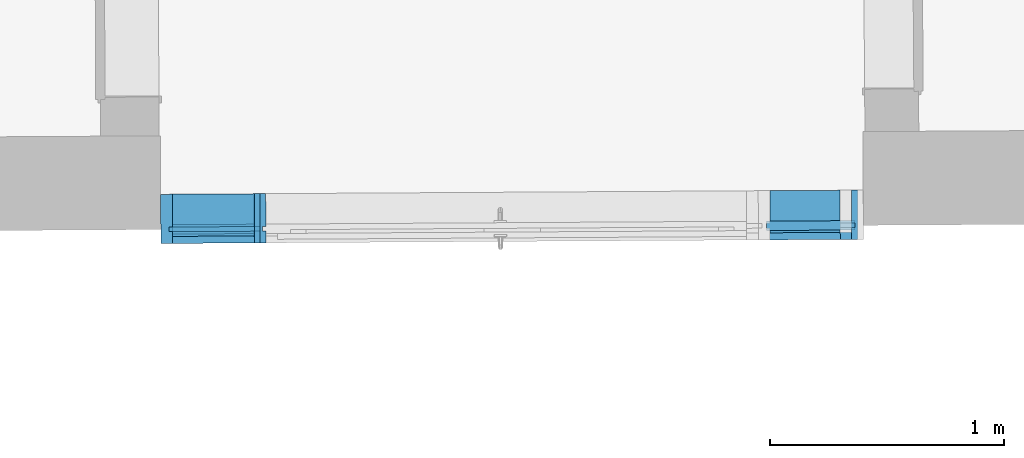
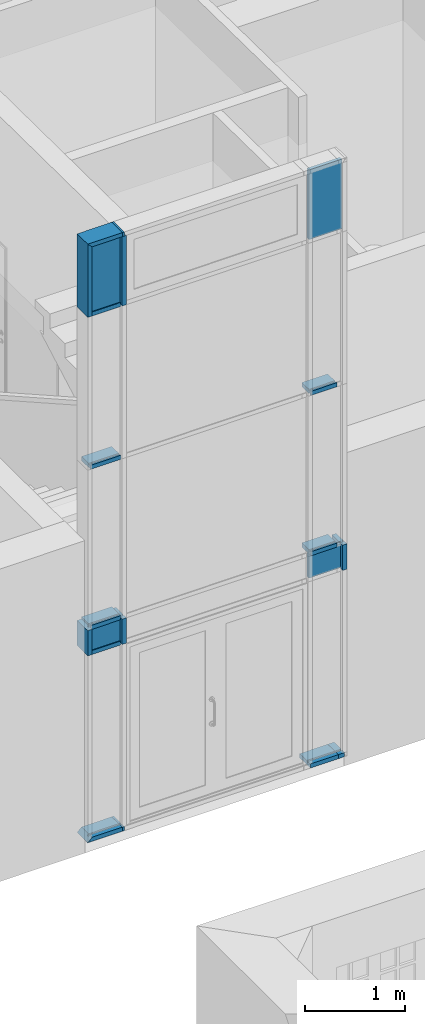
# One storey, part 147 of 196: 21 building element parts, 1 element without a shape of its own.
"""IFC2X3 building model written with IfcOpenShell, lengths in metres."""

import ifcopenshell
import ifcopenshell.guid

model = None  # the IFC model being written
_history = None  # IfcOwnerHistory: only IFC2X3 demands one
_inside = {}  # id of a spatial element -> (the spatial element, [elements in it])
_under = {}  # id of a project, library or spatial element -> (it, [spatial elements below it])
_declared = {}  # id of a project -> (the project, [libraries it declares])
_typed = {}  # id of a type object -> (the type object, [elements of that type])
_made_of = {}  # id of a material, layer set ... -> (it, [elements and type objects made of it])


def new_model(schema):
    """Start an empty IFC model of exactly this schema.

    Asked for "IFC4X3", IfcOpenShell would pick the latest addendum, in which some entities
    have other attributes; the version numbers below select the first issue.
    IFC2X3 requires an IfcOwnerHistory on every rooted entity: one is made here for all.
    """
    global model, _history
    if schema == "IFC4X3":
        model = ifcopenshell.file(schema_version=(4, 3, 0, 0))
    else:
        model = ifcopenshell.file(schema=schema)
    _inside.clear()
    _under.clear()
    _declared.clear()
    _typed.clear()
    _made_of.clear()
    _history = None
    if model.schema == "IFC2X3":
        org = make("IfcOrganization", Name="unknown")
        user = make(
            "IfcPersonAndOrganization",
            ThePerson=make("IfcPerson", FamilyName="unknown"),
            TheOrganization=org,
        )
        app = make(
            "IfcApplication",
            ApplicationDeveloper=org,
            Version="unknown",
            ApplicationFullName="unknown",
            ApplicationIdentifier="unknown",
        )
        _history = make(
            "IfcOwnerHistory",
            OwningUser=user,
            OwningApplication=app,
            ChangeAction="ADDED",
            CreationDate=0,
        )
    return model


def make(cls, **values):
    """One entity of the class cls with the attributes given. An attribute that is None is left unset."""
    return model.create_entity(
        cls, **{name: value for name, value in values.items() if value is not None}
    )


def entity(cls, *values):
    """Any entity or typed value of the class cls, its attributes in the order of the schema. None: left unset."""
    e = model.create_entity(cls)
    for i, value in enumerate(values):
        if value is not None:
            e[i] = value
    return e


def rooted(cls, **values):
    """An entity with a GlobalId (a new one), such as an element, a storey or a relation."""
    return make(cls, GlobalId=ifcopenshell.guid.new(), OwnerHistory=_history, **values)


def si_unit(unit_type, name, prefix=None):
    """IfcSIUnit, for example si_unit("LENGTHUNIT", "METRE", prefix="MILLI")."""
    return make("IfcSIUnit", UnitType=unit_type, Prefix=prefix, Name=name)


def converted_unit(unit_type, name, factor, base, dimensions=None, offset=None):
    """IfcConversionBasedUnit, such as the inch: factor (a typed value) times the base unit."""
    return make(
        "IfcConversionBasedUnit"
        if offset is None
        else "IfcConversionBasedUnitWithOffset",
        ConversionOffset=offset,
        Dimensions=None
        if dimensions is None
        else entity("IfcDimensionalExponents", *dimensions),
        UnitType=unit_type,
        Name=name,
        ConversionFactor=make(
            "IfcMeasureWithUnit", ValueComponent=factor, UnitComponent=base
        ),
    )


def derived_unit(unit_type, elements):
    """IfcDerivedUnit: a product of units, each with its exponent."""
    return make(
        "IfcDerivedUnit",
        Elements=[
            make("IfcDerivedUnitElement", Unit=unit, Exponent=power)
            for unit, power in elements
        ],
        UnitType=unit_type,
    )


def money_unit(currency):
    """IfcMonetaryUnit."""
    return make("IfcMonetaryUnit", Currency=currency)


def assignment(units):
    """IfcUnitAssignment: the units of a project."""
    return None if units is None else make("IfcUnitAssignment", Units=units)


def point(xyz):
    """IfcCartesianPoint."""
    return None if xyz is None else make("IfcCartesianPoint", Coordinates=xyz)


def direction(xyz):
    """IfcDirection."""
    return None if xyz is None else make("IfcDirection", DirectionRatios=xyz)


def frame(location, z_axis=None, x_axis=None):
    """IfcAxis2Placement3D, a coordinate frame: its origin and axes. An axis left out is left unset."""
    return make(
        "IfcAxis2Placement3D",
        Location=point(location),
        Axis=direction(z_axis),
        RefDirection=direction(x_axis),
    )


def origin_with_axes():
    """The frame at (0, 0, 0) with the z axis (0, 0, 1) and the x axis (1, 0, 0) written out."""
    return frame((0.0, 0.0, 0.0), z_axis=(0.0, 0.0, 1.0), x_axis=(1.0, 0.0, 0.0))


def place(relative_to, where):
    """IfcLocalPlacement: puts the frame where relative to a parent placement (None: the world)."""
    return make(
        "IfcLocalPlacement", PlacementRelTo=relative_to, RelativePlacement=where
    )


def context(
    kind, dimensions, precision=None, world=None, true_north=None, identifier=None
):
    """IfcGeometricRepresentationContext, for example the 3D "Model" context."""
    return make(
        "IfcGeometricRepresentationContext",
        ContextIdentifier=identifier,
        ContextType=kind,
        CoordinateSpaceDimension=dimensions,
        Precision=precision,
        WorldCoordinateSystem=world,
        TrueNorth=true_north,
    )


def subcontext(parent, identifier, kind, view, scale=None):
    """IfcGeometricRepresentationSubContext, for example "Body" below "Model"."""
    return make(
        "IfcGeometricRepresentationSubContext",
        ContextIdentifier=identifier,
        ContextType=kind,
        ParentContext=parent,
        TargetScale=scale,
        TargetView=view,
    )


def project(units=None, contexts=None):
    """IfcProject with its units and contexts."""
    return rooted(
        "IfcProject",
        Name="project",
        RepresentationContexts=contexts,
        UnitsInContext=assignment(units),
    )


def spatial(cls, under=None, at=None, **own):
    """A site, building, storey or space (cls), placed at a placement, below another one or the project."""
    s = rooted(cls, ObjectPlacement=at, **own)
    if under is not None:
        _under.setdefault(under.id(), (under, []))[1].append(s)
    return s


def faces_of(points, faces, orient=None, outer=None):
    """IfcFace entities. A face is a list of loops; a loop is a list of indices into points, from 0.

    orient and outer hold one flag for each loop. By default every Orientation is true, the
    first loop of a face is its IfcFaceOuterBound and the others are IfcFaceBound.
    """
    made = []
    for i, loops in enumerate(faces):
        bounds = []
        for j, loop in enumerate(loops):
            is_outer = j == 0 if outer is None else outer[i][j]
            bounds.append(
                make(
                    "IfcFaceOuterBound" if is_outer else "IfcFaceBound",
                    Bound=make("IfcPolyLoop", Polygon=[points[k] for k in loop]),
                    Orientation=True if orient is None else orient[i][j],
                )
            )
        made.append(make("IfcFace", Bounds=bounds))
    return made


def faceted_brep(points, faces, orient=None, outer=None, voids=None):
    """IfcFacetedBrep: a solid bounded by flat faces; with voids (closed shells), ...WithVoids."""
    shared = [point(p) for p in points]
    hull = make("IfcClosedShell", CfsFaces=faces_of(shared, faces, orient, outer))
    if voids is None:
        return make("IfcFacetedBrep", Outer=hull)
    return make(
        "IfcFacetedBrepWithVoids",
        Outer=hull,
        Voids=[
            make(cls, CfsFaces=faces_of(shared, fs, o, b)) for cls, fs, o, b in voids
        ],
    )


def shape(context_of_items, identifier, shape_type, items):
    """IfcShapeRepresentation: the items that make up one representation, for example the "Body"."""
    return make(
        "IfcShapeRepresentation",
        ContextOfItems=context_of_items,
        RepresentationIdentifier=identifier,
        RepresentationType=shape_type,
        Items=items,
    )


def material(Name=None, Category=None):
    """IfcMaterial."""
    return make("IfcMaterial", Name=Name, Category=Category)


def made_of(thing, what):
    """Note that an element or type object is made of a material, layer set ...; save() writes the relation."""
    if what is not None:
        _made_of.setdefault(what.id(), (what, []))[1].append(thing)
    return thing


def type_object(cls, material=None, **own):
    """A type object (cls), such as IfcWallType, which elements share."""
    return made_of(rooted(cls, **own), material)


def element(
    cls,
    number,
    at=None,
    inside=None,
    cuts=None,
    type_object=None,
    material=None,
    context=None,
    identifier="Body",
    shape_type=None,
    held_by="IfcProductDefinitionShape",
    body=None,
    shapes=None,
    **own,
):
    """One element of the class cls, such as IfcWall. Its Tag is "e" and its number.

    at: its placement. inside: the storey or other place that contains it. cuts: it is an
    opening in that element (IfcRelVoidsElement). A single representation is given by context,
    identifier, shape_type and body (its items); several are given by shapes. held_by: the class
    of the entity that holds the representations. save() writes the other relations.
    """
    e = rooted(cls, Tag="e%d" % number, ObjectPlacement=at, **own)
    if body is not None:
        shapes = [shape(context, identifier, shape_type, body)]
    if shapes is not None:
        e.Representation = make(held_by, Representations=shapes)
    if inside is not None:
        _inside.setdefault(inside.id(), (inside, []))[1].append(e)
    if cuts is not None:
        rooted(
            "IfcRelVoidsElement", RelatingBuildingElement=cuts, RelatedOpeningElement=e
        )
    if type_object is not None:
        _typed.setdefault(type_object.id(), (type_object, []))[1].append(e)
    return made_of(e, material)


def aggregate(whole, parts):
    """IfcRelAggregates: a whole, such as a stair, and the parts it consists of."""
    return rooted("IfcRelAggregates", RelatingObject=whole, RelatedObjects=parts)


def save(model, path):
    """Write the relations noted so far, then the file.

    IfcRelAggregates (storeys below a building ...), IfcRelContainedInSpatialStructure (elements
    in a storey), IfcRelDefinesByType, IfcRelAssociatesMaterial and IfcRelDeclares: one each for
    every whole, place, type object, material and project.
    """
    for whole, parts in _under.values():
        aggregate(whole, parts)
    for where, things in _inside.values():
        rooted(
            "IfcRelContainedInSpatialStructure",
            RelatedElements=things,
            RelatingStructure=where,
        )
    for kind, things in _typed.values():
        rooted("IfcRelDefinesByType", RelatedObjects=things, RelatingType=kind)
    for what, things in _made_of.values():
        rooted("IfcRelAssociatesMaterial", RelatedObjects=things, RelatingMaterial=what)
    for by, libraries in _declared.values():
        rooted("IfcRelDeclares", RelatingContext=by, RelatedDefinitions=libraries)
    model.write(path)


model = new_model("IFC2X3")

# Units and contexts
model_context = context("Model", 3, precision=1e-05, world=origin_with_axes(), true_north=direction((0.0, 1.0)))
body_context = subcontext(model_context, "Body", "Model", "MODEL_VIEW")
ifc_project = project(units=[si_unit("LENGTHUNIT", "METRE"), si_unit("AREAUNIT", "SQUARE_METRE"), si_unit("VOLUMEUNIT", "CUBIC_METRE"), converted_unit("PLANEANGLEUNIT", "DEGREE", entity("IfcPlaneAngleMeasure", 0.0174532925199), si_unit("PLANEANGLEUNIT", "RADIAN"), dimensions=[0, 0, 0, 0, 0, 0, 0]), money_unit("EUR"), converted_unit("TIMEUNIT", "Year", entity("IfcTimeMeasure", 31556926.0), si_unit("TIMEUNIT", "SECOND"), dimensions=[0, 0, 1, 0, 0, 0, 0]), si_unit("MASSUNIT", "GRAM", prefix="KILO"), si_unit("THERMODYNAMICTEMPERATUREUNIT", "DEGREE_CELSIUS"), si_unit("LUMINOUSINTENSITYUNIT", "LUMEN"), si_unit("ENERGYUNIT", "JOULE", prefix="MEGA"), derived_unit("THERMALCONDUCTANCEUNIT", [(si_unit("POWERUNIT", "WATT"), 1), (si_unit("LENGTHUNIT", "METRE"), -1), (si_unit("THERMODYNAMICTEMPERATUREUNIT", "KELVIN"), -1)]), derived_unit("SPECIFICHEATCAPACITYUNIT", [(si_unit("ENERGYUNIT", "JOULE"), 1), (si_unit("MASSUNIT", "GRAM", prefix="KILO"), -1), (si_unit("THERMODYNAMICTEMPERATUREUNIT", "KELVIN"), -1)]), derived_unit("MASSDENSITYUNIT", [(si_unit("MASSUNIT", "GRAM", prefix="KILO"), 1), (si_unit("VOLUMEUNIT", "CUBIC_METRE"), -1)])], contexts=[model_context])

# Site, building, storey
site_placement = place(None, origin_with_axes())
site = spatial("IfcSite", under=ifc_project, at=site_placement, Name="Gelände", CompositionType="ELEMENT")
building_placement = place(site_placement, origin_with_axes())
building = spatial("IfcBuilding", under=site, at=building_placement, Name="Gebäude", CompositionType="ELEMENT")
storey_placement = place(building_placement, frame((0.0, 0.0, -3.0), z_axis=(0.0, 0.0, 1.0), x_axis=(1.0, 0.0, 0.0)))
storey = spatial("IfcBuildingStorey", under=building, at=storey_placement, Name="KELLERGESCHOSS", CompositionType="ELEMENT", Elevation=-3.0)

# Proxy, building element parts
building_element_proxy_type = type_object("IfcBuildingElementProxyType", Name="Fassadentyp", PredefinedType="NOTDEFINED")
proxy_placement = place(storey_placement, frame((-23.8310150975, 30.9074049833, 0.410855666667), z_axis=(0.0, 0.0, 1.0), x_axis=(1.0, 0.0, 0.0)))
proxy = element("IfcBuildingElementProxy", 1, at=proxy_placement, inside=storey, type_object=building_element_proxy_type, Name="Fassade-002")
ifc_material_1 = material(Name="45_Glas, Normalglas")
building_element_part_1_placement = place(proxy_placement, origin_with_axes())
building_element_part_1 = element("IfcBuildingElementPart", 2, at=building_element_part_1_placement, material=ifc_material_1, Name="45_Glas, Normalglas", context=body_context, shape_type="Brep", body=[
    faceted_brep([(0.147138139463, 0.0208810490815, 7.26500005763), (0.0833492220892, 0.0204992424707, 7.26500005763), (0.0835886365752, -0.0195000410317, 7.26500005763), (0.147377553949, -0.0191182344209, 7.26500005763), (0.147138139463, 0.0208810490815, 6.41594889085), (0.0833492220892, 0.0204992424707, 6.41594889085), (-0.230846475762, 0.0186186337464, 6.41594889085), (-0.230846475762, 0.0186186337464, 7.26500005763), (-0.230607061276, -0.021380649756, 7.26500005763), (-0.230607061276, -0.021380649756, 6.41594889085), (0.0835886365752, -0.0195000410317, 6.41594889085), (0.147377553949, -0.0191182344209, 6.41594889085)], [[[0, 1, 2, 3]], [[0, 4, 5, 6, 7, 1]], [[1, 7, 8, 2]], [[3, 2, 8, 9, 10, 11]], [[4, 0, 3, 11]], [[5, 4, 11, 10]], [[6, 5, 10, 9]], [[7, 6, 9, 8]]]),
])
building_element_part_2_placement = place(proxy_placement, origin_with_axes())
building_element_part_2 = element("IfcBuildingElementPart", 3, at=building_element_part_2_placement, material=ifc_material_1, Name="45_Glas, Normalglas", context=body_context, shape_type="Brep", body=[
    faceted_brep([(-2.40286183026, 0.00561810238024, 7.26500005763), (-2.41660599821, 0.00553583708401, 7.26500005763), (-2.41636658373, -0.0344634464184, 7.26500005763), (-2.40262241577, -0.0343811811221, 7.26500005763), (-2.40286183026, 0.00561810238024, 6.41594889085), (-2.41660599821, 0.00553583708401, 6.41594889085), (-2.78159945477, 0.00335117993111, 6.41594889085), (-2.78159945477, 0.00335117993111, 7.26500005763), (-2.78136004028, -0.0366481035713, 7.26500005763), (-2.78136004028, -0.0366481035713, 6.41594889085), (-2.41636658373, -0.0344634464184, 6.41594889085), (-2.40262241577, -0.0343811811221, 6.41594889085)], [[[0, 1, 2, 3]], [[0, 4, 5, 6, 7, 1]], [[1, 7, 8, 2]], [[3, 2, 8, 9, 10, 11]], [[4, 0, 3, 11]], [[5, 4, 11, 10]], [[6, 5, 10, 9]], [[7, 6, 9, 8]]]),
])
building_element_part_3_placement = place(proxy_placement, origin_with_axes())
building_element_part_3 = element("IfcBuildingElementPart", 4, at=building_element_part_3_placement, material=ifc_material_1, Name="45_Glas, Normalglas", context=body_context, shape_type="Brep", body=[
    faceted_brep([(0.147138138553, 0.0208810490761, 2.57656080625), (0.0833492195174, 0.0204992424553, 2.57656080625), (0.0835886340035, -0.0195000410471, 2.57656080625), (0.147377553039, -0.0191182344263, 2.57656080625), (0.147138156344, 0.0208810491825, 2.28812768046), (0.0833492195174, 0.0204992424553, 2.28812768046), (-0.230846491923, 0.0186186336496, 2.28812768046), (-0.230846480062, 0.0186186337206, 2.57656080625), (-0.230607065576, -0.0213806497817, 2.57656080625), (-0.230607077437, -0.0213806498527, 2.28812768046), (0.0835886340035, -0.0195000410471, 2.28812768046), (0.14737757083, -0.0191182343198, 2.28812768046)], [[[0, 1, 2, 3]], [[0, 4, 5, 6, 7, 1]], [[1, 7, 8, 2]], [[3, 2, 8, 9, 10, 11]], [[4, 0, 3, 11]], [[5, 4, 11, 10]], [[6, 5, 10, 9]], [[7, 6, 9, 8]]]),
])
building_element_part_4_placement = place(proxy_placement, origin_with_axes())
building_element_part_4 = element("IfcBuildingElementPart", 5, at=building_element_part_4_placement, material=ifc_material_1, Name="45_Glas, Normalglas", context=body_context, shape_type="Brep", body=[
    faceted_brep([(-2.40286183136, 0.00561810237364, 2.57656080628), (-2.41660599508, 0.00553583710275, 2.57656080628), (-2.41636658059, -0.0344634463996, 2.57656080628), (-2.40262241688, -0.0343811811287, 2.57656080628), (-2.40286181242, 0.00561810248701, 2.28812767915), (-2.41660599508, 0.00553583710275, 2.28812767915), (-2.7815994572, 0.00335117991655, 2.28812767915), (-2.7815994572, 0.00335117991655, 2.57656080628), (-2.78136004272, -0.0366481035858, 2.57656080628), (-2.78136004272, -0.0366481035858, 2.28812767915), (-2.41636658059, -0.0344634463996, 2.28812767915), (-2.40262239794, -0.0343811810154, 2.28812767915)], [[[0, 1, 2, 3]], [[0, 4, 5, 6, 7, 1]], [[1, 7, 8, 2]], [[3, 2, 8, 9, 10, 11]], [[4, 0, 3, 11]], [[5, 4, 11, 10]], [[6, 5, 10, 9]], [[7, 6, 9, 8]]]),
])
ifc_material_2 = material(Name="53_Metall, Aluminium")
building_element_part_5_placement = place(proxy_placement, origin_with_axes())
building_element_part_5 = element("IfcBuildingElementPart", 6, at=building_element_part_5_placement, material=ifc_material_2, Name="53_Metall, Aluminium", context=body_context, shape_type="Brep", body=[
    faceted_brep([(0.157197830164, 0.0109410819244, 0.035), (0.157317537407, -0.00905855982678, 0.035), (0.157317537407, -0.00905855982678, 0.05), (0.157616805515, -0.0590576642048, 0.05), (0.157616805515, -0.0590576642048, 0.0), (0.156359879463, 0.150938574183, 0.0), (0.156359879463, 0.150938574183, 0.05), (0.157197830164, 0.0109410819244, 0.05), (0.0834090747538, 0.0104994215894, 0.035), (0.0835287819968, -0.00950022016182, 0.035), (0.0835287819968, -0.00950022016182, 0.05), (0.0838280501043, -0.0594993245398, 0.05), (0.0838280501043, -0.0594993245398, 0.0), (0.0825711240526, 0.150496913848, 0.0), (0.0825711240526, 0.150496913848, 0.05), (0.0834090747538, 0.0104994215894, 0.05)], [[[0, 1, 2, 3, 4, 5, 6, 7]], [[1, 0, 8, 9]], [[10, 2, 1, 9]], [[2, 10, 11, 3]], [[12, 4, 3, 11]], [[13, 5, 4, 12]], [[14, 6, 5, 13]], [[15, 7, 6, 14]], [[0, 7, 15, 8]], [[8, 15, 14, 13, 12, 11, 10, 9]]]),
])
building_element_part_6_placement = place(proxy_placement, origin_with_axes())
building_element_part_6 = element("IfcBuildingElementPart", 7, at=building_element_part_6_placement, material=ifc_material_2, Name="53_Metall, Aluminium", context=body_context, shape_type="Brep", body=[
    faceted_brep([(0.16719765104, 0.0110009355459, 2.5865608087), (0.182197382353, 0.0110907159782, 2.5865608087), (0.181359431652, 0.151088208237, 2.5865608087), (0.131360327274, 0.150788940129, 2.5865608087), (0.132198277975, 0.0107914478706, 2.5865608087), (0.147198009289, 0.0108812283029, 2.5865608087), (0.147317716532, -0.00911841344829, 2.5865608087), (0.132317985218, -0.00920819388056, 2.5865608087), (0.132617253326, -0.0592072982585, 2.5865608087), (0.182616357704, -0.058908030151, 2.5865608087), (0.182317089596, -0.00890892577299, 2.5865608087), (0.167317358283, -0.00899870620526, 2.5865608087), (0.16719765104, 0.0110009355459, 2.27812767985), (0.182197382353, 0.0110907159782, 2.27812767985), (0.181359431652, 0.151088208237, 2.27812767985), (0.131360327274, 0.150788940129, 2.27812767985), (0.132198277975, 0.0107914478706, 2.27812767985), (0.147198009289, 0.0108812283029, 2.27812767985), (0.147317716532, -0.00911841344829, 2.27812767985), (0.132317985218, -0.00920819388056, 2.27812767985), (0.132617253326, -0.0592072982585, 2.27812767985), (0.182616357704, -0.058908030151, 2.27812767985), (0.182317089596, -0.00890892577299, 2.27812767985), (0.167317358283, -0.00899870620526, 2.27812767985)], [[[0, 1, 2, 3, 4, 5, 6, 7, 8, 9, 10, 11]], [[1, 0, 12, 13]], [[1, 13, 14, 2]], [[3, 2, 14, 15]], [[4, 3, 15, 16]], [[4, 16, 17, 5]], [[5, 17, 18, 6]], [[7, 6, 18, 19]], [[19, 20, 8, 7]], [[9, 8, 20, 21]], [[22, 10, 9, 21]], [[11, 10, 22, 23]], [[0, 11, 23, 12]], [[23, 22, 21, 20, 19, 18, 17, 16, 15, 14, 13, 12]]]),
])
building_element_part_7_placement = place(proxy_placement, origin_with_axes())
building_element_part_7 = element("IfcBuildingElementPart", 8, at=building_element_part_7_placement, material=ifc_material_2, Name="53_Metall, Aluminium", context=body_context, shape_type="Brep", body=[
    faceted_brep([(-2.41654614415, -0.00446398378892, 0.035), (-2.4164264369, -0.0244636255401, 0.035), (-2.4164264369, -0.0244636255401, 0.05), (-2.41612716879, -0.0744627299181, 0.05), (-2.41612716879, -0.0744627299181, 0.0), (-2.41738409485, 0.135533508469, 0.0), (-2.41738409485, 0.135533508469, 0.05), (-2.41654614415, -0.00446398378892, 0.05), (-2.7815396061, -0.00664864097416, 0.035), (-2.78141989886, -0.0266482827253, 0.035), (-2.76642016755, -0.0265585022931, 0.05), (-2.76612089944, -0.0765576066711, 0.05), (-2.81612000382, -0.0768568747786, 0.0), (-2.81737692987, 0.133139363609, 0.0), (-2.76737782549, 0.133438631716, 0.05), (-2.76653987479, -0.00655886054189, 0.05)], [[[0, 1, 2, 3, 4, 5, 6, 7]], [[1, 0, 8, 9]], [[10, 2, 1, 9]], [[2, 10, 11, 3]], [[4, 3, 11, 12]], [[5, 4, 12, 13]], [[6, 5, 13, 14]], [[15, 7, 6, 14]], [[0, 7, 15, 8]], [[8, 15, 14, 13, 12, 11, 10, 9]]]),
])
building_element_part_8_placement = place(proxy_placement, origin_with_axes())
building_element_part_8 = element("IfcBuildingElementPart", 9, at=building_element_part_8_placement, material=ifc_material_2, Name="53_Metall, Aluminium", context=body_context, shape_type="Brep", body=[
    faceted_brep([(-2.41654614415, -0.00446398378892, 2.26812768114), (-2.41654614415, -0.00446398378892, 2.25312768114), (-2.41738409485, 0.135533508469, 2.25312768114), (-2.41738409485, 0.135533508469, 2.30312768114), (-2.41654614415, -0.00446398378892, 2.30312768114), (-2.41654614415, -0.00446398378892, 2.28812768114), (-2.4164264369, -0.0244636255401, 2.28812768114), (-2.4164264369, -0.0244636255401, 2.30312768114), (-2.41630672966, -0.0444632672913, 2.30312768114), (-2.41630672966, -0.0444632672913, 2.25312768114), (-2.4164264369, -0.0244636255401, 2.25312768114), (-2.4164264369, -0.0244636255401, 2.26812768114), (-2.76653987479, -0.00655886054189, 2.26812768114), (-2.76653987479, -0.00655886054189, 2.25312768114), (-2.76737782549, 0.133438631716, 2.25312768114), (-2.76737782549, 0.133438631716, 2.30312768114), (-2.76653987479, -0.00655886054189, 2.30312768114), (-2.76653987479, -0.00655886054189, 2.28812768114), (-2.76642016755, -0.0265585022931, 2.28812768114), (-2.76642016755, -0.0265585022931, 2.30312768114), (-2.7663004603, -0.0465581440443, 2.30312768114), (-2.7663004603, -0.0465581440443, 2.25312768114), (-2.76642016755, -0.0265585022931, 2.25312768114), (-2.76642016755, -0.0265585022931, 2.26812768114)], [[[0, 1, 2, 3, 4, 5, 6, 7, 8, 9, 10, 11]], [[1, 0, 12, 13]], [[1, 13, 14, 2]], [[2, 14, 15, 3]], [[4, 3, 15, 16]], [[4, 16, 17, 5]], [[5, 17, 18, 6]], [[7, 6, 18, 19]], [[19, 20, 8, 7]], [[8, 20, 21, 9]], [[22, 10, 9, 21]], [[11, 10, 22, 23]], [[0, 11, 23, 12]], [[23, 22, 21, 20, 19, 18, 17, 16, 15, 14, 13, 12]]]),
])
building_element_part_9_placement = place(proxy_placement, origin_with_axes())
building_element_part_9 = element("IfcBuildingElementPart", 10, at=building_element_part_9_placement, material=ifc_material_2, Name="53_Metall, Aluminium", context=body_context, shape_type="Brep", body=[
    faceted_brep([(-2.41654614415, -0.00446398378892, 7.26500006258), (-2.4164264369, -0.0244636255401, 7.26500006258), (-2.4164264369, -0.0244636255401, 7.25000006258), (-2.41612716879, -0.0744627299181, 7.25000006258), (-2.41612716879, -0.0744627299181, 7.30000006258), (-2.41738409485, 0.135533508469, 7.30000006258), (-2.41738409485, 0.135533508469, 7.25000006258), (-2.41654614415, -0.00446398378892, 7.25000006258), (-2.3928021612, -0.00432186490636, 7.26500006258), (-2.39268245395, -0.0243215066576, 7.26500006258), (-2.39268245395, -0.0243215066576, 7.25000006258), (-2.39238318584, -0.0743206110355, 7.25000006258), (-2.39238318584, -0.0743206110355, 7.30000006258), (-2.3936401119, 0.135675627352, 7.30000006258), (-2.3936401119, 0.135675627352, 7.25000006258), (-2.3928021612, -0.00432186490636, 7.25000006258)], [[[0, 1, 2, 3, 4, 5, 6, 7]], [[1, 0, 8, 9]], [[10, 2, 1, 9]], [[2, 10, 11, 3]], [[12, 4, 3, 11]], [[13, 5, 4, 12]], [[14, 6, 5, 13]], [[15, 7, 6, 14]], [[0, 7, 15, 8]], [[8, 15, 14, 13, 12, 11, 10, 9]]]),
])
building_element_part_10_placement = place(proxy_placement, origin_with_axes())
building_element_part_10 = element("IfcBuildingElementPart", 11, at=building_element_part_10_placement, material=ifc_material_2, Name="53_Metall, Aluminium", context=body_context, shape_type="Brep", body=[
    faceted_brep([(0.0834090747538, 0.0104994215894, 2.57656080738), (0.0834090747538, 0.0104994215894, 2.56156080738), (0.0825711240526, 0.150496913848, 2.56156080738), (0.0825711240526, 0.150496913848, 2.61156080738), (0.0834090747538, 0.0104994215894, 2.61156080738), (0.0834090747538, 0.0104994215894, 2.59656080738), (0.0835287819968, -0.00950022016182, 2.59656080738), (0.0835287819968, -0.00950022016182, 2.61156080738), (0.0836484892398, -0.029499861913, 2.61156080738), (0.0836484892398, -0.029499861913, 2.56156080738), (0.0835287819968, -0.00950022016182, 2.56156080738), (0.0835287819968, -0.00950022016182, 2.57656080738), (-0.215786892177, 0.00870859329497, 2.57656080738), (-0.215786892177, 0.00870859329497, 2.56156080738), (-0.216624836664, 0.148706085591, 2.56156080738), (-0.216624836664, 0.148706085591, 2.61156080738), (-0.215786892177, 0.00870859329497, 2.61156080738), (-0.215786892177, 0.00870859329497, 2.59656080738), (-0.215667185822, -0.0112910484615, 2.59656080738), (-0.215667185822, -0.0112910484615, 2.61156080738), (-0.215547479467, -0.031290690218, 2.61156080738), (-0.215547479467, -0.031290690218, 2.56156080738), (-0.215667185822, -0.0112910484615, 2.56156080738), (-0.215667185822, -0.0112910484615, 2.57656080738)], [[[0, 1, 2, 3, 4, 5, 6, 7, 8, 9, 10, 11]], [[1, 0, 12, 13]], [[1, 13, 14, 2]], [[2, 14, 15, 3]], [[4, 3, 15, 16]], [[4, 16, 17, 5]], [[5, 17, 18, 6]], [[7, 6, 18, 19]], [[19, 20, 8, 7]], [[8, 20, 21, 9]], [[22, 10, 9, 21]], [[11, 10, 22, 23]], [[0, 11, 23, 12]], [[23, 22, 21, 20, 19, 18, 17, 16, 15, 14, 13, 12]]]),
])
building_element_part_11_placement = place(proxy_placement, origin_with_axes())
building_element_part_11 = element("IfcBuildingElementPart", 12, at=building_element_part_11_placement, material=ifc_material_2, Name="53_Metall, Aluminium", context=body_context, shape_type="Brep", body=[
    faceted_brep([(0.0834090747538, 0.0104994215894, 0.035), (0.0835287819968, -0.00950022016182, 0.035), (0.0835287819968, -0.00950022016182, 0.05), (0.0838280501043, -0.0594993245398, 0.05), (0.0838280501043, -0.0594993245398, 0.0), (0.0825711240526, 0.150496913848, 0.0), (0.0825711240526, 0.150496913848, 0.05), (0.0834090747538, 0.0104994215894, 0.05), (-0.2407864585, 0.00855895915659, 0.035), (-0.240666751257, -0.0114406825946, 0.035), (-0.240666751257, -0.0114406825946, 0.05), (-0.24036748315, -0.0614397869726, 0.05), (-0.24036748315, -0.0614397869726, 0.0), (-0.241624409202, 0.148556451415, 0.0), (-0.241624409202, 0.148556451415, 0.05), (-0.2407864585, 0.00855895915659, 0.05)], [[[0, 1, 2, 3, 4, 5, 6, 7]], [[1, 0, 8, 9]], [[10, 2, 1, 9]], [[2, 10, 11, 3]], [[12, 4, 3, 11]], [[13, 5, 4, 12]], [[14, 6, 5, 13]], [[15, 7, 6, 14]], [[0, 7, 15, 8]], [[8, 15, 14, 13, 12, 11, 10, 9]]]),
])
building_element_part_12_placement = place(proxy_placement, origin_with_axes())
building_element_part_12 = element("IfcBuildingElementPart", 13, at=building_element_part_12_placement, material=ifc_material_2, Name="53_Metall, Aluminium", context=body_context, shape_type="Brep", body=[
    faceted_brep([(-2.7815396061, -0.00664864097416, 2.58656080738), (-2.76653987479, -0.00655886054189, 2.58656080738), (-2.76737782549, 0.133438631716, 2.58656080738), (-2.81737692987, 0.133139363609, 2.58656080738), (-2.81612000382, -0.0768568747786, 2.58656080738), (-2.76612089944, -0.0765576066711, 2.58656080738), (-2.76642016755, -0.0265585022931, 2.58656080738), (-2.78141989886, -0.0266482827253, 2.58656080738), (-2.7815396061, -0.00664864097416, 2.27812768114), (-2.76653987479, -0.00655886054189, 2.27812768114), (-2.76737782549, 0.133438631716, 2.27812768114), (-2.81737692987, 0.133139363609, 2.27812768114), (-2.81612000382, -0.0768568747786, 2.27812768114), (-2.76612089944, -0.0765576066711, 2.27812768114), (-2.76642016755, -0.0265585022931, 2.27812768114), (-2.78141989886, -0.0266482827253, 2.27812768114)], [[[0, 1, 2, 3, 4, 5, 6, 7]], [[0, 8, 9, 1]], [[9, 10, 2, 1]], [[10, 11, 3, 2]], [[11, 12, 4, 3]], [[12, 13, 5, 4]], [[6, 5, 13, 14]], [[14, 15, 7, 6]], [[7, 15, 8, 0]], [[8, 15, 14, 13, 12, 11, 10, 9]]]),
])
building_element_part_13_placement = place(proxy_placement, origin_with_axes())
building_element_part_13 = element("IfcBuildingElementPart", 14, at=building_element_part_13_placement, material=ifc_material_2, Name="53_Metall, Aluminium", context=body_context, shape_type="Brep", body=[
    faceted_brep([(0.0834090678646, 0.0104994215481, 4.5322628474), (0.0834090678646, 0.0104994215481, 4.5172628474), (0.0825711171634, 0.150496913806, 4.5172628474), (0.0825711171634, 0.150496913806, 4.5672628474), (0.0834090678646, 0.0104994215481, 4.5672628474), (0.0834090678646, 0.0104994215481, 4.5522628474), (0.0835287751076, -0.00950022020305, 4.5522628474), (0.0835287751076, -0.00950022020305, 4.5672628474), (0.0836484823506, -0.0294998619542, 4.5672628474), (0.0836484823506, -0.0294998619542, 4.5172628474), (0.0835287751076, -0.00950022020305, 4.5172628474), (0.0835287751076, -0.00950022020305, 4.5322628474), (-0.215786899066, 0.00870859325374, 4.5322628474), (-0.215786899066, 0.00870859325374, 4.5172628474), (-0.216624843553, 0.148706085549, 4.5172628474), (-0.216624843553, 0.148706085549, 4.5672628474), (-0.215786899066, 0.00870859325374, 4.5672628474), (-0.215786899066, 0.00870859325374, 4.5522628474), (-0.215667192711, -0.0112910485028, 4.5522628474), (-0.215667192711, -0.0112910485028, 4.5672628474), (-0.215547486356, -0.0312906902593, 4.5672628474), (-0.215547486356, -0.0312906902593, 4.5172628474), (-0.215667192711, -0.0112910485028, 4.5172628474), (-0.215667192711, -0.0112910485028, 4.5322628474)], [[[0, 1, 2, 3, 4, 5, 6, 7, 8, 9, 10, 11]], [[1, 0, 12, 13]], [[1, 13, 14, 2]], [[2, 14, 15, 3]], [[4, 3, 15, 16]], [[4, 16, 17, 5]], [[5, 17, 18, 6]], [[7, 6, 18, 19]], [[19, 20, 8, 7]], [[8, 20, 21, 9]], [[22, 10, 9, 21]], [[11, 10, 22, 23]], [[0, 11, 23, 12]], [[23, 22, 21, 20, 19, 18, 17, 16, 15, 14, 13, 12]]]),
])
building_element_part_14_placement = place(proxy_placement, origin_with_axes())
building_element_part_14 = element("IfcBuildingElementPart", 15, at=building_element_part_14_placement, material=ifc_material_2, Name="53_Metall, Aluminium", context=body_context, shape_type="Brep", body=[
    faceted_brep([(-2.7815396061, -0.00664864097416, 7.26500006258), (-2.76653987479, -0.00655886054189, 7.25000006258), (-2.76737782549, 0.133438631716, 7.25000006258), (-2.81737692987, 0.133139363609, 7.30000006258), (-2.81612000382, -0.0768568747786, 7.30000006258), (-2.76612089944, -0.0765576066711, 7.25000006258), (-2.76642016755, -0.0265585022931, 7.25000006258), (-2.78141989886, -0.0266482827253, 7.26500006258), (-2.7815396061, -0.00664864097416, 6.40594888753), (-2.76653987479, -0.00655886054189, 6.40594888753), (-2.76737782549, 0.133438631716, 6.40594888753), (-2.81737692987, 0.133139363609, 6.40594888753), (-2.81612000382, -0.0768568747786, 6.40594888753), (-2.76612089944, -0.0765576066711, 6.40594888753), (-2.76642016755, -0.0265585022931, 6.40594888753), (-2.78141989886, -0.0266482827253, 6.40594888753)], [[[0, 1, 2, 3, 4, 5, 6, 7]], [[0, 8, 9, 1]], [[9, 10, 2, 1]], [[10, 11, 3, 2]], [[11, 12, 4, 3]], [[12, 13, 5, 4]], [[6, 5, 13, 14]], [[14, 15, 7, 6]], [[7, 15, 8, 0]], [[8, 15, 14, 13, 12, 11, 10, 9]]]),
])
building_element_part_15_placement = place(proxy_placement, origin_with_axes())
building_element_part_15 = element("IfcBuildingElementPart", 16, at=building_element_part_15_placement, material=ifc_material_2, Name="53_Metall, Aluminium", context=body_context, shape_type="Brep", body=[
    faceted_brep([(-2.38280231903, -0.00426201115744, 2.5865608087), (-2.36780258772, -0.00417223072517, 2.5865608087), (-2.36864053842, 0.135825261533, 2.5865608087), (-2.4186396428, 0.135525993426, 2.5865608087), (-2.4178016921, -0.00447149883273, 2.5865608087), (-2.40280196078, -0.00438171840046, 2.5865608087), (-2.40268225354, -0.0243813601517, 2.5865608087), (-2.41768198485, -0.0244711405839, 2.5865608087), (-2.41738271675, -0.0744702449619, 2.5865608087), (-2.36738361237, -0.0741709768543, 2.5865608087), (-2.36768288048, -0.0241718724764, 2.5865608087), (-2.38268261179, -0.0242616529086, 2.5865608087), (-2.38280231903, -0.00426201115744, 2.27812767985), (-2.36780258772, -0.00417223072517, 2.27812767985), (-2.36864053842, 0.135825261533, 2.27812767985), (-2.4186396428, 0.135525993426, 2.27812767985), (-2.4178016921, -0.00447149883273, 2.27812767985), (-2.40280196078, -0.00438171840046, 2.27812767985), (-2.40268225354, -0.0243813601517, 2.27812767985), (-2.41768198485, -0.0244711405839, 2.27812767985), (-2.41738271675, -0.0744702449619, 2.27812767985), (-2.36738361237, -0.0741709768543, 2.27812767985), (-2.36768288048, -0.0241718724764, 2.27812767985), (-2.38268261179, -0.0242616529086, 2.27812767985)], [[[0, 1, 2, 3, 4, 5, 6, 7, 8, 9, 10, 11]], [[1, 0, 12, 13]], [[1, 13, 14, 2]], [[3, 2, 14, 15]], [[4, 3, 15, 16]], [[4, 16, 17, 5]], [[5, 17, 18, 6]], [[7, 6, 18, 19]], [[19, 20, 8, 7]], [[9, 8, 20, 21]], [[22, 10, 9, 21]], [[11, 10, 22, 23]], [[0, 11, 23, 12]], [[23, 22, 21, 20, 19, 18, 17, 16, 15, 14, 13, 12]]]),
])
building_element_part_16_placement = place(proxy_placement, origin_with_axes())
building_element_part_16 = element("IfcBuildingElementPart", 17, at=building_element_part_16_placement, material=ifc_material_2, Name="53_Metall, Aluminium", context=body_context, shape_type="Brep", body=[
    faceted_brep([(-2.41654614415, -0.00446398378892, 6.39594888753), (-2.41654614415, -0.00446398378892, 6.38094888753), (-2.41738409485, 0.135533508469, 6.38094888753), (-2.41738409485, 0.135533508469, 6.43094888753), (-2.41654614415, -0.00446398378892, 6.43094888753), (-2.41654614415, -0.00446398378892, 6.41594888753), (-2.4164264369, -0.0244636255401, 6.41594888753), (-2.4164264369, -0.0244636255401, 6.43094888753), (-2.41630672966, -0.0444632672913, 6.43094888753), (-2.41630672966, -0.0444632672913, 6.38094888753), (-2.4164264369, -0.0244636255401, 6.38094888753), (-2.4164264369, -0.0244636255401, 6.39594888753), (-2.76653987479, -0.00655886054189, 6.39594888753), (-2.76653987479, -0.00655886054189, 6.38094888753), (-2.76737782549, 0.133438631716, 6.38094888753), (-2.76737782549, 0.133438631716, 6.43094888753), (-2.76653987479, -0.00655886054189, 6.43094888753), (-2.76653987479, -0.00655886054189, 6.41594888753), (-2.76642016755, -0.0265585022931, 6.41594888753), (-2.76642016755, -0.0265585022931, 6.43094888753), (-2.7663004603, -0.0465581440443, 6.43094888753), (-2.7663004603, -0.0465581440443, 6.38094888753), (-2.76642016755, -0.0265585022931, 6.38094888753), (-2.76642016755, -0.0265585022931, 6.39594888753)], [[[0, 1, 2, 3, 4, 5, 6, 7, 8, 9, 10, 11]], [[1, 0, 12, 13]], [[1, 13, 14, 2]], [[2, 14, 15, 3]], [[4, 3, 15, 16]], [[4, 16, 17, 5]], [[5, 17, 18, 6]], [[7, 6, 18, 19]], [[19, 20, 8, 7]], [[8, 20, 21, 9]], [[22, 10, 9, 21]], [[11, 10, 22, 23]], [[0, 11, 23, 12]], [[23, 22, 21, 20, 19, 18, 17, 16, 15, 14, 13, 12]]]),
])
building_element_part_17_placement = place(proxy_placement, origin_with_axes())
building_element_part_17 = element("IfcBuildingElementPart", 18, at=building_element_part_17_placement, material=ifc_material_2, Name="53_Metall, Aluminium", context=body_context, shape_type="Brep", body=[
    faceted_brep([(-2.7815396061, -0.00664864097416, 7.26500006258), (-2.78141989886, -0.0266482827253, 7.26500006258), (-2.76642016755, -0.0265585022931, 7.25000006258), (-2.76612089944, -0.0765576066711, 7.25000006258), (-2.81612000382, -0.0768568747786, 7.30000006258), (-2.81737692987, 0.133139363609, 7.30000006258), (-2.76737782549, 0.133438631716, 7.25000006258), (-2.76653987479, -0.00655886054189, 7.25000006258), (-2.41654614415, -0.00446398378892, 7.26500006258), (-2.4164264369, -0.0244636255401, 7.26500006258), (-2.4164264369, -0.0244636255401, 7.25000006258), (-2.41612716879, -0.0744627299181, 7.25000006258), (-2.41612716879, -0.0744627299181, 7.30000006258), (-2.41738409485, 0.135533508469, 7.30000006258), (-2.41738409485, 0.135533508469, 7.25000006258), (-2.41654614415, -0.00446398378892, 7.25000006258)], [[[0, 1, 2, 3, 4, 5, 6, 7]], [[1, 0, 8, 9]], [[10, 2, 1, 9]], [[2, 10, 11, 3]], [[12, 4, 3, 11]], [[13, 5, 4, 12]], [[14, 6, 5, 13]], [[15, 7, 6, 14]], [[0, 7, 15, 8]], [[8, 15, 14, 13, 12, 11, 10, 9]]]),
])
building_element_part_18_placement = place(proxy_placement, origin_with_axes())
building_element_part_18 = element("IfcBuildingElementPart", 19, at=building_element_part_18_placement, material=ifc_material_2, Name="53_Metall, Aluminium", context=body_context, shape_type="Brep", body=[
    faceted_brep([(-2.41654614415, -0.00446398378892, 4.5322628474), (-2.41654614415, -0.00446398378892, 4.5172628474), (-2.41738409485, 0.135533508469, 4.5172628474), (-2.41738409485, 0.135533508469, 4.5672628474), (-2.41654614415, -0.00446398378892, 4.5672628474), (-2.41654614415, -0.00446398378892, 4.5522628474), (-2.4164264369, -0.0244636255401, 4.5522628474), (-2.4164264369, -0.0244636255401, 4.5672628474), (-2.41630672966, -0.0444632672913, 4.5672628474), (-2.41630672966, -0.0444632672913, 4.5172628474), (-2.4164264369, -0.0244636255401, 4.5172628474), (-2.4164264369, -0.0244636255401, 4.5322628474), (-2.76653987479, -0.00655886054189, 4.5322628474), (-2.76653987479, -0.00655886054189, 4.5172628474), (-2.76737782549, 0.133438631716, 4.5172628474), (-2.76737782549, 0.133438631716, 4.5672628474), (-2.76653987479, -0.00655886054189, 4.5672628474), (-2.76653987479, -0.00655886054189, 4.5522628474), (-2.76642016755, -0.0265585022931, 4.5522628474), (-2.76642016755, -0.0265585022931, 4.5672628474), (-2.7663004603, -0.0465581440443, 4.5672628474), (-2.7663004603, -0.0465581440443, 4.5172628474), (-2.76642016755, -0.0265585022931, 4.5172628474), (-2.76642016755, -0.0265585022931, 4.5322628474)], [[[0, 1, 2, 3, 4, 5, 6, 7, 8, 9, 10, 11]], [[1, 0, 12, 13]], [[1, 13, 14, 2]], [[2, 14, 15, 3]], [[4, 3, 15, 16]], [[4, 16, 17, 5]], [[5, 17, 18, 6]], [[7, 6, 18, 19]], [[19, 20, 8, 7]], [[8, 20, 21, 9]], [[22, 10, 9, 21]], [[11, 10, 22, 23]], [[0, 11, 23, 12]], [[23, 22, 21, 20, 19, 18, 17, 16, 15, 14, 13, 12]]]),
])
building_element_part_19_placement = place(proxy_placement, origin_with_axes())
building_element_part_19 = element("IfcBuildingElementPart", 20, at=building_element_part_19_placement, material=ifc_material_2, Name="53_Metall, Aluminium", context=body_context, shape_type="Brep", body=[
    faceted_brep([(-2.41654614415, -0.00446398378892, 2.57656080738), (-2.41654614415, -0.00446398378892, 2.56156080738), (-2.41738409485, 0.135533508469, 2.56156080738), (-2.41738409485, 0.135533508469, 2.61156080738), (-2.41654614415, -0.00446398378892, 2.61156080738), (-2.41654614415, -0.00446398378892, 2.59656080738), (-2.4164264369, -0.0244636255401, 2.59656080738), (-2.4164264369, -0.0244636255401, 2.61156080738), (-2.41630672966, -0.0444632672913, 2.61156080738), (-2.41630672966, -0.0444632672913, 2.56156080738), (-2.4164264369, -0.0244636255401, 2.56156080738), (-2.4164264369, -0.0244636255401, 2.57656080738), (-2.76653987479, -0.00655886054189, 2.57656080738), (-2.76653987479, -0.00655886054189, 2.56156080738), (-2.76737782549, 0.133438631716, 2.56156080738), (-2.76737782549, 0.133438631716, 2.61156080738), (-2.76653987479, -0.00655886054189, 2.61156080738), (-2.76653987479, -0.00655886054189, 2.59656080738), (-2.76642016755, -0.0265585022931, 2.59656080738), (-2.76642016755, -0.0265585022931, 2.61156080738), (-2.7663004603, -0.0465581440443, 2.61156080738), (-2.7663004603, -0.0465581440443, 2.56156080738), (-2.76642016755, -0.0265585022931, 2.56156080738), (-2.76642016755, -0.0265585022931, 2.57656080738)], [[[0, 1, 2, 3, 4, 5, 6, 7, 8, 9, 10, 11]], [[1, 0, 12, 13]], [[1, 13, 14, 2]], [[2, 14, 15, 3]], [[4, 3, 15, 16]], [[4, 16, 17, 5]], [[5, 17, 18, 6]], [[7, 6, 18, 19]], [[19, 20, 8, 7]], [[8, 20, 21, 9]], [[22, 10, 9, 21]], [[11, 10, 22, 23]], [[0, 11, 23, 12]], [[23, 22, 21, 20, 19, 18, 17, 16, 15, 14, 13, 12]]]),
])
building_element_part_20_placement = place(proxy_placement, origin_with_axes())
building_element_part_20 = element("IfcBuildingElementPart", 21, at=building_element_part_20_placement, material=ifc_material_2, Name="53_Metall, Aluminium", context=body_context, shape_type="Brep", body=[
    faceted_brep([(-2.38280234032, -0.00426201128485, 7.25000006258), (-2.36780260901, -0.00417223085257, 7.25000006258), (-2.36864055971, 0.135825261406, 7.25000006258), (-2.41863966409, 0.135525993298, 7.25000006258), (-2.41780171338, -0.00447149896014, 7.25000006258), (-2.40280198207, -0.00438171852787, 7.25000006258), (-2.40268227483, -0.0243813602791, 7.25000006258), (-2.41768200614, -0.0244711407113, 7.25000006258), (-2.41738273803, -0.0744702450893, 7.25000006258), (-2.36738363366, -0.0741709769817, 7.25000006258), (-2.36768290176, -0.0241718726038, 7.25000006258), (-2.38268263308, -0.024261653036, 7.25000006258), (-2.38280234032, -0.00426201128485, 6.40594888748), (-2.36780260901, -0.00417223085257, 6.40594888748), (-2.36864055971, 0.135825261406, 6.40594888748), (-2.41863966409, 0.135525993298, 6.40594888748), (-2.41780171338, -0.00447149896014, 6.40594888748), (-2.40280198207, -0.00438171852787, 6.40594888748), (-2.40268227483, -0.0243813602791, 6.40594888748), (-2.41768200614, -0.0244711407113, 6.40594888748), (-2.41738273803, -0.0744702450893, 6.40594888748), (-2.36738363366, -0.0741709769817, 6.40594888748), (-2.36768290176, -0.0241718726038, 6.40594888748), (-2.38268263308, -0.024261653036, 6.40594888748)], [[[0, 1, 2, 3, 4, 5, 6, 7, 8, 9, 10, 11]], [[1, 0, 12, 13]], [[1, 13, 14, 2]], [[3, 2, 14, 15]], [[4, 3, 15, 16]], [[4, 16, 17, 5]], [[5, 17, 18, 6]], [[7, 6, 18, 19]], [[19, 20, 8, 7]], [[9, 8, 20, 21]], [[22, 10, 9, 21]], [[11, 10, 22, 23]], [[0, 11, 23, 12]], [[23, 22, 21, 20, 19, 18, 17, 16, 15, 14, 13, 12]]]),
])
building_element_part_21_placement = place(proxy_placement, origin_with_axes())
building_element_part_21 = element("IfcBuildingElementPart", 22, at=building_element_part_21_placement, material=ifc_material_2, Name="53_Metall, Aluminium", context=body_context, shape_type="Brep", body=[
    faceted_brep([(-2.3928021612, -0.00432186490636, 0.035), (-2.39268245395, -0.0243215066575, 0.035), (-2.39268245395, -0.0243215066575, 0.05), (-2.39238318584, -0.0743206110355, 0.05), (-2.39238318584, -0.0743206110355, 0.0), (-2.3936401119, 0.135675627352, 0.0), (-2.3936401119, 0.135675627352, 0.05), (-2.3928021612, -0.00432186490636, 0.05), (-2.41654614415, -0.00446398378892, 0.035), (-2.4164264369, -0.0244636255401, 0.035), (-2.4164264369, -0.0244636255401, 0.05), (-2.41612716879, -0.0744627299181, 0.05), (-2.41612716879, -0.0744627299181, 0.0), (-2.41738409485, 0.135533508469, 0.0), (-2.41738409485, 0.135533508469, 0.05), (-2.41654614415, -0.00446398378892, 0.05)], [[[0, 1, 2, 3, 4, 5, 6, 7]], [[1, 0, 8, 9]], [[10, 2, 1, 9]], [[2, 10, 11, 3]], [[12, 4, 3, 11]], [[13, 5, 4, 12]], [[14, 6, 5, 13]], [[15, 7, 6, 14]], [[0, 7, 15, 8]], [[8, 15, 14, 13, 12, 11, 10, 9]]]),
])
aggregate(proxy, [building_element_part_1, building_element_part_2, building_element_part_3, building_element_part_4, building_element_part_5, building_element_part_6, building_element_part_7, building_element_part_8, building_element_part_9, building_element_part_10, building_element_part_11, building_element_part_12, building_element_part_13, building_element_part_14, building_element_part_15, building_element_part_16, building_element_part_17, building_element_part_18, building_element_part_19, building_element_part_20, building_element_part_21])

save(model, "model.ifc")
